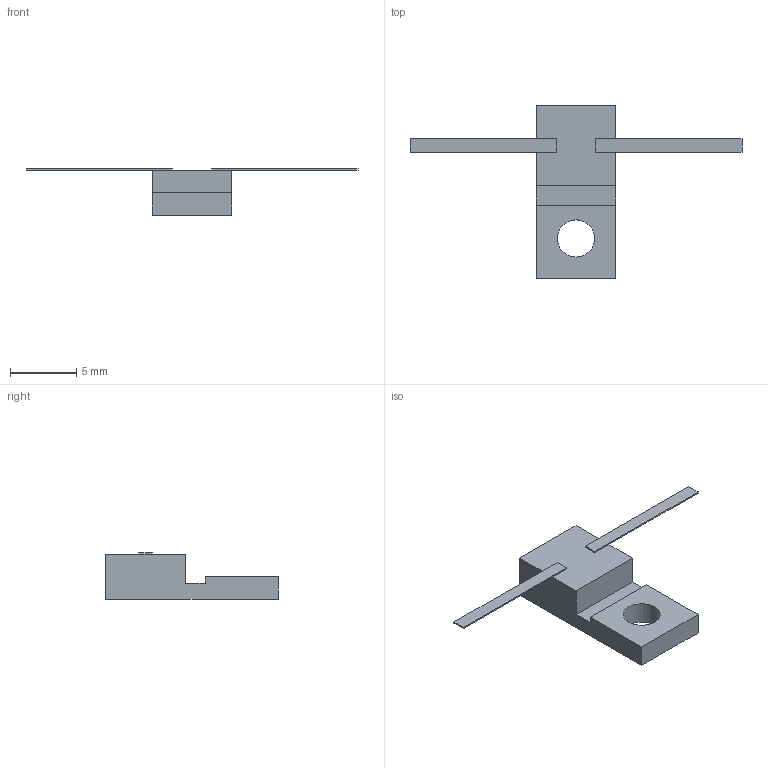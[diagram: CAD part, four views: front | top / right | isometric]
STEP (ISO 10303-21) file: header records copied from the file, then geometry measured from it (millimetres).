
FILE_DESCRIPTION(('STEP AP203'), '1');
FILE_NAME('Ð1-87-30', '', ('UNSPECIFIED'), ('UNSPECIFIED'), 'ASCON STEP Converter 1.6', 'ASCON Math Kernel', '');
FILE_SCHEMA(('CONFIG_CONTROL_DESIGN'));
Length unit declared in the file: millimetre
Bounding box: 25 x 13 x 3.5 mm (x, y, z)
Volume: 181 mm3; surface area: 311.3 mm2
Topology: 1 solids, 1 shells, 23 faces, 59 edges, 38 vertices
Faces by surface type: plane 22, cylinder 1
Full cylindrical faces by diameter (mm): 2.8 x1
Entity records: 910 total; most frequent: CARTESIAN_POINT 120, ORIENTED_EDGE 116, DIRECTION 108, EDGE_CURVE 58, LINE 56, VECTOR 56, VERTEX_POINT 38, AXIS2_PLACEMENT_3D 26
